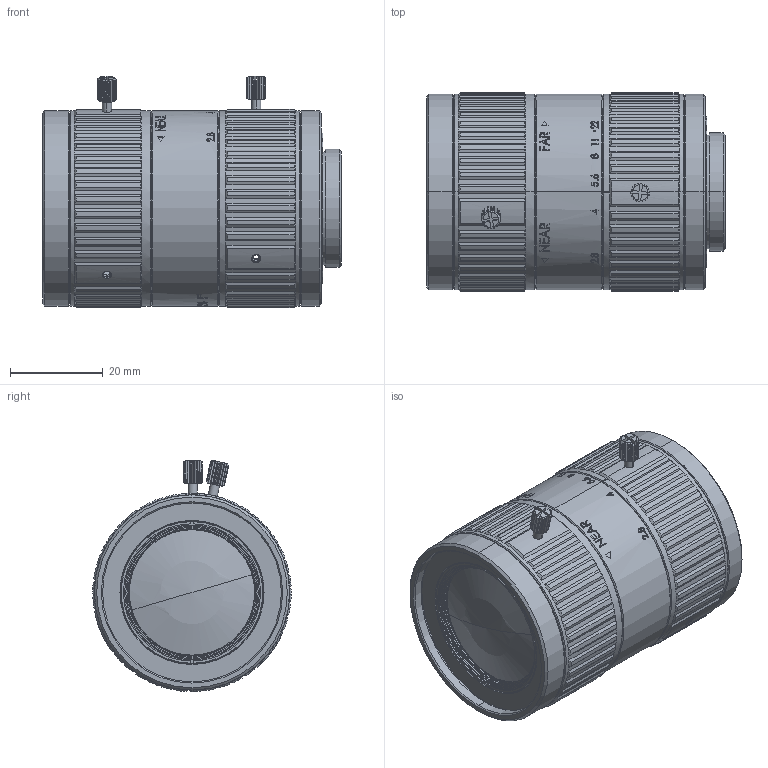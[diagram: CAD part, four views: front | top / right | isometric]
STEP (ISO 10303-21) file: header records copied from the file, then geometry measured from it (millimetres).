
FILE_DESCRIPTION((''),'2;1');
FILE_NAME('MVL-KF7528M-12MP','2023-03-31T15:17:29',('liangdongmei'),(''),'CREO PARAMETRIC BY PTC INC, 2017260','CREO PARAMETRIC BY PTC INC, 2017260','');
FILE_SCHEMA(('CONFIG_CONTROL_DESIGN'));
Products named in the file (1): MVL-KF7528M-12MP
Bounding box: 64.3 x 42.7 x 49.77 mm (x, y, z)
Volume: 11006.9 mm3; surface area: 25645.7 mm2
Topology: 5 solids, 15 shells, 1634 faces, 4232 edges, 2693 vertices
Faces by surface type: plane 661, cylinder 324, cone 321, bspline 267, torus 28, extrusion 27, sphere 6
Entity records: 69039 total; most frequent: CARTESIAN_POINT 31580, ORIENTED_EDGE 8433, DIRECTION 6779, EDGE_CURVE 4228, VERTEX_POINT 2693, AXIS2_PLACEMENT_3D 2569, EDGE_LOOP 1759, VECTOR 1641
